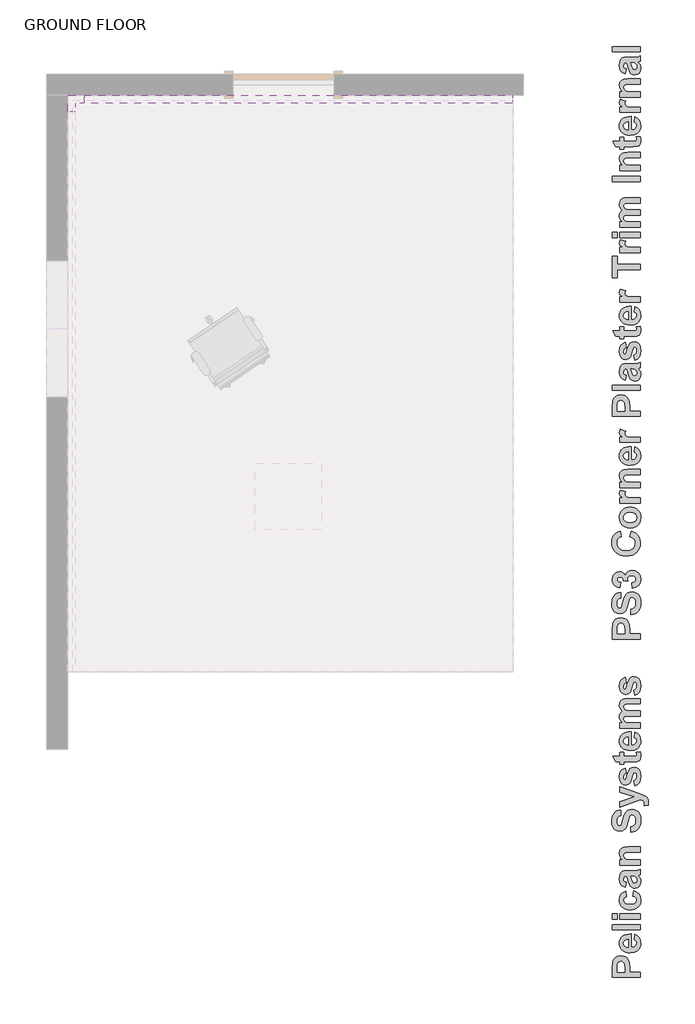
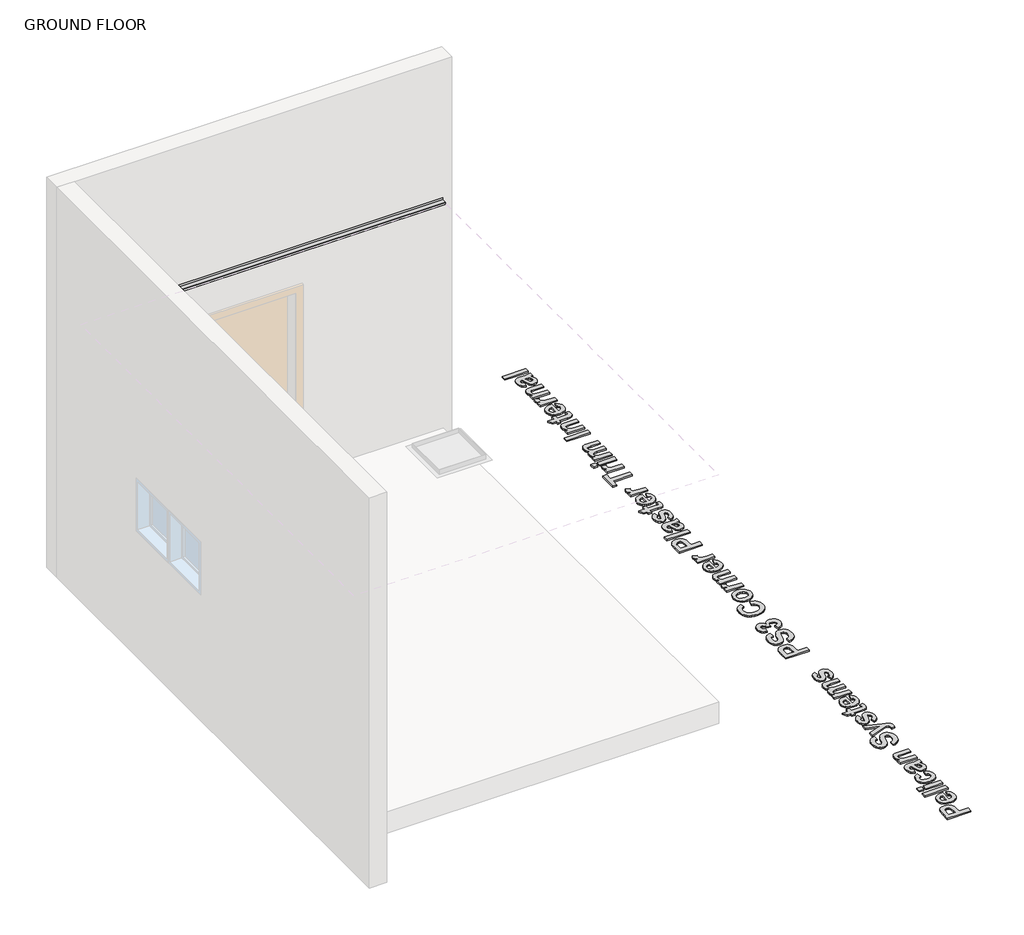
# One storey, part 2 of 2: 3 proxies.
"""IFC4 building model written with IfcOpenShell, lengths in millimetres."""

from ifc_helpers import new_model, si_unit, frame, origin, origin_with_axes, place, context, project, spatial, polyline, outline, extrude, transform, mapped, element, save
from components import ps3_corner_trim_internal_1c7d912d

model = new_model("IFC4")

# Units and contexts
model_context = context("Model", 3, world=origin())
ifc_project = project(units=[si_unit("LENGTHUNIT", "METRE", prefix="MILLI")], contexts=[model_context])

# Site, building, storey
site = spatial("IfcSite", under=ifc_project)
building = spatial("IfcBuilding", under=site)
storey = spatial("IfcBuildingStorey", under=building, Name="GROUND FLOOR", Elevation=0.0)

# Proxies
placement = place(None, origin())
element("IfcBuildingElementProxy", 1, Name="600mm Arial", ObjectType="600mm Arial", at=placement, inside=storey, context=model_context, shape_type="SweptSolid", body=[
    extrude(outline(polyline([(125618.7572663, 46653.2083414), (125363.6924163, 46653.2083414), (125363.6924163, 46735.3832522), (125367.4880242, 46796.3027588), (125376.5421305, 46816.3483129), (125392.3176258, 46832.8354847), (125414.2293539, 46843.8664701), (125441.6921584, 46847.5434652), (125463.1768806, 46845.3847132), (125480.94507, 46838.9084573), (125495.1469695, 46829.1031369), (125505.9328219, 46816.9571917), (125517.9838769, 46789.9134855), (125521.5897044, 46735.8260731), (125521.5897044, 46701.7921224), (125618.7572663, 46701.7921224), (125618.7572663, 46653.2083414)]), holes=[polyline([(125408.2275489, 46701.7921224), (125477.0545719, 46701.7921224), (125477.0545719, 46731.9672051), (125473.258964, 46775.5218056), (125461.3344292, 46792.7285613), (125452.5491785, 46797.4019035), (125442.45128, 46798.9596843), (125430.3844099, 46796.7693022), (125420.6265346, 46790.1981561), (125413.6362901, 46780.290038), (125409.8723123, 46768.0887401), (125408.2275489, 46728.4246377), (125408.2275489, 46701.7921224)])]), origin_with_axes(), (0.0, 0.0, 1.0), 15.0),
    extrude(outline(polyline([(125562.0761886, 46993.2948081), (125570.1734854, 47041.878589), (125592.844335, 47030.0489444), (125609.3631368, 47012.9054488), (125619.4452203, 46990.6220675), (125622.8059147, 46963.3727659), (125620.8250819, 46941.3701014), (125614.8825833, 46922.4276458), (125604.978419, 46906.5453991), (125591.1125889, 46893.7233612), (125562.4083042, 46880.3438434), (125527.0300757, 46875.8840041), (125505.1895154, 46877.3627097), (125485.8477302, 46881.7988264), (125469.0047202, 46889.1923543), (125454.6604854, 46899.5432933), (125443.2024941, 46912.155782), (125435.0182145, 46926.3339589), (125430.1076468, 46942.0778242), (125428.4707909, 46959.3873776), (125430.1511382, 46978.6224113), (125435.1921799, 46995.7145081), (125443.5939161, 47010.6636679), (125455.3563468, 47023.4698908), (125470.5901772, 47033.6745407), (125489.4061126, 47040.8189818), (125511.8041529, 47044.9032141), (125537.7842981, 47045.9272374), (125537.7842981, 46924.4677851), (125558.2489506, 46927.5833465), (125573.5895325, 46935.9178689), (125583.1734424, 46948.2061494), (125586.368079, 46963.1829855), (125584.928911, 46973.3836817), (125580.6114071, 46981.8447243), (125573.0992665, 46988.5028531), (125562.0761886, 46993.2948081)]), holes=[polyline([(125509.4437592, 46997.3434565), (125490.2364018, 46994.3860453), (125476.2638203, 46986.525974), (125467.7474251, 46975.1075203), (125464.9086267, 46961.474962), (125467.8976679, 46947.0832821), (125476.8647915, 46935.4117878), (125491.0192459, 46927.7573119), (125509.4437592, 46925.2901668), (125509.4437592, 46997.3434565)])]), origin_with_axes(), (0.0, 0.0, 1.0), 15.0),
    extrude(outline(polyline([(125618.7572663, 47082.3650732), (125363.6924163, 47082.3650732), (125363.6924163, 47130.9488541), (125618.7572663, 47130.9488541), (125618.7572663, 47082.3650732)])), origin_with_axes(), (0.0, 0.0, 1.0), 15.0),
    extrude(outline(polyline([(125408.2275489, 47179.5326351), (125363.6924163, 47179.5326351), (125363.6924163, 47228.116416), (125408.2275489, 47228.116416), (125408.2275489, 47179.5326351)])), origin_with_axes(), (0.0, 0.0, 1.0), 15.0),
    extrude(outline(polyline([(125618.7572663, 47179.5326351), (125432.5194394, 47179.5326351), (125432.5194394, 47228.116416), (125618.7572663, 47228.116416), (125618.7572663, 47179.5326351)])), origin_with_axes(), (0.0, 0.0, 1.0), 15.0),
    extrude(outline(polyline([(125485.1518687, 47430.5488366), (125493.2491655, 47381.9650557), (125480.8897174, 47378.2406154), (125472.0253914, 47371.6220242), (125466.6878179, 47362.3465074), (125464.9086267, 47350.6512906), (125468.2455986, 47335.2474486), (125478.2565144, 47323.3229138), (125496.0800564, 47315.684253), (125522.8549071, 47313.1380327), (125552.5397237, 47315.7870507), (125572.0080292, 47323.7341047), (125582.7780666, 47336.140998), (125586.368079, 47352.1695338), (125584.3200323, 47364.3075715), (125578.175892, 47374.0259092), (125567.0183863, 47381.2771017), (125549.9302433, 47386.0137041), (125558.0275401, 47434.597485), (125586.1703911, 47423.9618754), (125606.4531708, 47406.6048769), (125618.7177288, 47382.368339), (125622.8059147, 47351.0941115), (125621.1967352, 47332.3275982), (125616.3691964, 47315.5656402), (125608.3232984, 47300.8082377), (125597.0590412, 47288.0553905), (125582.9520319, 47277.7736423), (125566.3778775, 47270.4295364), (125547.3365779, 47266.0230729), (125525.8281332, 47264.5542517), (125504.0765324, 47266.0131885), (125484.8751056, 47270.3899988), (125468.2238529, 47277.6846827), (125454.1227742, 47287.8972402), (125442.9000316, 47300.6006654), (125434.8837868, 47315.3679523), (125430.0740399, 47332.199101), (125428.4707909, 47351.0941115), (125431.9738207, 47380.3361073), (125442.4829101, 47402.9041592), (125460.1562093, 47419.4308685), (125485.1518687, 47430.5488366)])), origin_with_axes(), (0.0, 0.0, 1.0), 15.0),
    extrude(outline(polyline([(125489.2005171, 47511.5218049), (125481.1032203, 47466.9866723), (125457.7602318, 47476.6417499), (125441.3758578, 47491.4367131), (125431.6970576, 47513.0005105), (125428.4707909, 47542.9620902), (125430.4239475, 47570.0532415), (125436.2834172, 47589.2052463), (125445.1398356, 47602.1419432), (125456.0838383, 47610.5871707), (125473.0929062, 47615.2367904), (125500.1445199, 47616.7866636), (125557.5847192, 47616.7866636), (125593.7695144, 47619.3486989), (125618.7572663, 47628.9326088), (125618.7572663, 47580.3488279), (125603.3217943, 47575.7940984), (125597.1855615, 47574.0860749), (125616.3850114, 47548.0861609), (125621.2006889, 47533.7735561), (125622.8059147, 47518.5436795), (125618.9075091, 47493.7694305), (125607.2122923, 47474.8625587), (125589.5706232, 47462.8826713), (125567.8328605, 47458.8893755), (125552.9350996, 47460.6685667), (125539.7453622, 47466.0061403), (125528.8488045, 47474.5541656), (125520.8305829, 47485.9647118), (125509.3804991, 47522.9718887), (125497.297814, 47568.2028827), (125492.1737433, 47568.2028827), (125479.5533471, 47566.692547), (125471.1713797, 47562.1615401), (125466.4743149, 47553.4553645), (125464.9086267, 47539.4195228), (125466.2529045, 47529.3453469), (125470.2857378, 47521.7699462), (125489.2005171, 47511.5218049)]), holes=[polyline([(125533.7356497, 47568.2028827), (125540.4728537, 47540.8112457), (125548.1589596, 47516.2663147), (125555.070129, 47509.671446), (125563.6576918, 47507.4731565), (125572.2689772, 47509.2365326), (125579.630875, 47514.5266611), (125584.683778, 47522.5369753), (125586.368079, 47532.4609084), (125584.407015, 47544.3696281), (125578.5238227, 47555.6773766), (125563.9739925, 47566.431599), (125542.5288079, 47568.2028827), (125533.7356497, 47568.2028827)])]), origin_with_axes(), (0.0, 0.0, 1.0), 15.0),
    extrude(outline(polyline([(125618.7572663, 47831.3650295), (125618.7572663, 47782.7812485), (125523.0446875, 47782.7812485), (125483.6968857, 47779.7447622), (125469.8429169, 47769.8129216), (125464.9086267, 47753.3020273), (125466.6720028, 47741.5435503), (125471.9621313, 47731.0660911), (125480.1701334, 47722.7790138), (125490.6871302, 47717.5916831), (125533.7989098, 47713.9542255), (125618.7572663, 47713.9542255), (125618.7572663, 47665.3704446), (125432.5194394, 47665.3704446), (125432.5194394, 47713.9542255), (125459.3417351, 47713.9542255), (125445.835697, 47726.2464598), (125436.188527, 47740.0332147), (125430.400225, 47755.3144902), (125428.4707909, 47772.0902863), (125434.3539832, 47800.3043049), (125449.3466343, 47819.6619052), (125470.0010672, 47828.8029941), (125503.1177461, 47831.3650295), (125618.7572663, 47831.3650295)])), origin_with_axes(), (0.0, 0.0, 1.0), 15.0),
    extrude(outline(polyline([(125533.7356497, 47964.9704271), (125529.6870013, 48013.554208), (125551.4168564, 48020.6393428), (125566.5043978, 48032.5322475), (125575.3291861, 48049.3119973), (125578.2707822, 48071.0576675), (125575.6692093, 48093.6257194), (125567.8644906, 48109.8361281), (125556.5804646, 48119.6098184), (125543.54097, 48122.8677152), (125528.3269084, 48117.4589739), (125517.4145358, 48098.5125646), (125506.5970533, 48056.381317), (125495.415825, 48020.4179323), (125481.7358216, 47997.0433137), (125458.4402782, 47979.0616214), (125430.5583753, 47973.0677239), (125411.7701162, 47975.8195396), (125394.2470598, 47984.0749868), (125379.3651139, 47997.5177647), (125368.5001863, 48015.8315728), (125361.8578725, 48038.7159253), (125359.6437679, 48065.8703367), (125365.1632144, 48107.8355264), (125372.0625225, 48124.3760739), (125381.7215538, 48137.9552565), (125393.6816724, 48148.6165655), (125407.4842423, 48156.4034924), (125423.1292636, 48161.3160369), (125440.6167362, 48163.3541993), (125440.6167362, 48114.7704183), (125423.923969, 48109.4012147), (125412.6873881, 48100.1256979), (125406.3060224, 48086.0898563), (125404.1789005, 48066.4396779), (125406.4404502, 48045.7536149), (125413.2250993, 48030.1283625), (125420.0255634, 48023.7707193), (125428.7870916, 48021.6515049), (125437.0583538, 48023.5809389), (125444.0327833, 48029.3692409), (125452.2012478, 48046.1727133), (125460.6385678, 48076.9724898), (125469.415911, 48109.8440356), (125478.6044451, 48132.8628159), (125489.7303207, 48148.9941495), (125504.3196885, 48161.2033548), (125522.5544214, 48168.8894608), (125544.6163923, 48171.4514961), (125565.6820161, 48168.4229173), (125585.3559169, 48159.337181), (125601.8984413, 48144.7082756), (125613.5699356, 48125.0501897), (125620.4969199, 48100.1494205), (125622.8059147, 48069.7924649), (125621.3845387, 48047.0899852), (125617.1204104, 48027.1867664), (125610.01353, 48010.0828083), (125600.0638975, 47995.7781111), (125587.3901255, 47984.1738307), (125572.1108269, 47975.1711233), (125554.2260016, 47968.7699887), (125533.7356497, 47964.9704271)])), origin_with_axes(), (0.0, 0.0, 1.0), 15.0),
    extrude(outline(polyline([(125432.5194394, 48191.6947382), (125432.5194394, 48240.2785191), (125564.3535533, 48282.7893275), (125432.5194394, 48325.3001358), (125432.5194394, 48373.8839167), (125610.9762702, 48310.8768258), (125644.124579, 48299.1737015), (125667.7206081, 48287.6287275), (125680.9419755, 48275.0083313), (125688.8178619, 48257.4536448), (125691.6329378, 48233.952506), (125688.849492, 48207.8893318), (125652.8544772, 48203.8406834), (125655.195102, 48223.1350235), (125652.6251592, 48236.9020096), (125644.9153307, 48246.5729022), (125618.7572663, 48258.2443965), (125432.5194394, 48191.6947382)])), origin_with_axes(), (0.0, 0.0, 1.0), 15.0),
    extrude(outline(polyline([(125566.124837, 48381.9812136), (125558.0275401, 48430.5649945), (125570.2683756, 48435.1908916), (125579.156424, 48442.9956104), (125584.5651653, 48454.2480062), (125586.368079, 48469.2169348), (125584.6442405, 48485.4589736), (125579.4727247, 48497.1146528), (125573.842573, 48501.8591627), (125566.5676579, 48503.4406659), (125557.458199, 48500.087879), (125551.0689257, 48484.209586), (125538.6383099, 48437.2863835), (125527.2831163, 48411.3971747), (125509.3014239, 48395.4081765), (125485.4681694, 48390.0785104), (125463.2796783, 48394.6490549), (125444.9184251, 48408.3606884), (125432.5826995, 48431.6878619), (125428.4707909, 48465.1050263), (125431.7919478, 48496.9723175), (125441.7554185, 48519.4454792), (125458.2346828, 48534.4539454), (125481.1032203, 48543.9271501), (125489.2005171, 48495.3433691), (125478.8100405, 48491.7691717), (125471.1713797, 48485.9808697), (125466.4743149, 48477.6305323), (125464.9086267, 48466.3702289), (125466.2370894, 48452.5320752), (125470.2224777, 48443.2802809), (125480.0910582, 48438.6622913), (125488.8842165, 48443.2802809), (125502.4851447, 48486.2655403), (125512.3062801, 48517.4923226), (125524.1833698, 48537.6011369), (125539.8560674, 48548.4186194), (125560.6844657, 48552.0244469), (125584.3832924, 48546.7975785), (125604.4921067, 48531.1169735), (125612.5043977, 48519.4079185), (125618.2274627, 48505.1882271), (125622.8059147, 48469.2169348), (125618.9944918, 48435.9025681), (125607.5602231, 48410.3533825), (125589.5785307, 48392.4270428), (125566.124837, 48381.9812136)])), origin_with_axes(), (0.0, 0.0, 1.0), 15.0),
    extrude(outline(polyline([(125432.5194394, 48685.6298445), (125468.9572751, 48685.6298445), (125468.9572751, 48649.1920088), (125548.8548211, 48649.1920088), (125577.1004698, 48650.2990611), (125583.7427836, 48655.3282416), (125586.368079, 48664.8805214), (125581.6868293, 48687.6541687), (125616.2268611, 48689.6784929), (125621.1611513, 48670.937679), (125622.8059147, 48649.8878702), (125618.2511853, 48625.3429392), (125606.4848008, 48609.3064959), (125586.9374202, 48602.1897311), (125551.5750067, 48600.6082279), (125468.9572751, 48600.6082279), (125468.9572751, 48576.3163374), (125432.5194394, 48576.3163374), (125432.5194394, 48600.6082279), (125396.0816036, 48600.6082279), (125367.7410648, 48649.1920088), (125432.5194394, 48649.1920088), (125432.5194394, 48685.6298445)])), origin_with_axes(), (0.0, 0.0, 1.0), 15.0),
    extrude(outline(polyline([(125562.0761886, 48819.2352421), (125570.1734854, 48867.8190231), (125592.844335, 48855.9893785), (125609.3631368, 48838.8458829), (125619.4452203, 48816.5625016), (125622.8059147, 48789.3132), (125620.8250819, 48767.3105355), (125614.8825833, 48748.3680799), (125604.978419, 48732.4858331), (125591.1125889, 48719.6637952), (125562.4083042, 48706.2842774), (125527.0300757, 48701.8244382), (125505.1895154, 48703.3031437), (125485.8477302, 48707.7392605), (125469.0047202, 48715.1327883), (125454.6604854, 48725.4837273), (125443.2024941, 48738.096216), (125435.0182145, 48752.274393), (125430.1076468, 48768.0182582), (125428.4707909, 48785.3278117), (125430.1511382, 48804.5628454), (125435.1921799, 48821.6549422), (125443.5939161, 48836.604102), (125455.3563468, 48849.4103248), (125470.5901772, 48859.6149748), (125489.4061126, 48866.7594159), (125511.8041529, 48870.8436481), (125537.7842981, 48871.8676715), (125537.7842981, 48750.4082191), (125558.2489506, 48753.5237806), (125573.5895325, 48761.8583029), (125583.1734424, 48774.1465834), (125586.368079, 48789.1234196), (125584.928911, 48799.3241158), (125580.6114071, 48807.7851583), (125573.0992665, 48814.4432872), (125562.0761886, 48819.2352421)]), holes=[polyline([(125509.4437592, 48823.2838905), (125490.2364018, 48820.3264794), (125476.2638203, 48812.4664081), (125467.7474251, 48801.0479543), (125464.9086267, 48787.415396), (125467.8976679, 48773.0237161), (125476.8647915, 48761.3522219), (125491.0192459, 48753.6977459), (125509.4437592, 48751.2306008), (125509.4437592, 48823.2838905)])]), origin_with_axes(), (0.0, 0.0, 1.0), 15.0),
    extrude(outline(polyline([(125432.5194394, 48904.2568588), (125432.5194394, 48952.8406397), (125457.4439311, 48952.8406397), (125444.7681823, 48964.8007583), (125435.714076, 48977.8442067), (125430.2816122, 48991.9709848), (125428.4707909, 49007.1810927), (125430.2499821, 49022.8300677), (125435.5875557, 49036.2491231), (125444.5309568, 49047.4540738), (125457.1276305, 49056.460735), (125444.5309568, 49068.8992584), (125435.5875557, 49082.3024987), (125430.2499821, 49096.6546411), (125428.4707909, 49111.9398703), (125430.5504678, 49130.3960137), (125436.7894982, 49145.7840406), (125447.0613621, 49157.8983558), (125461.239539, 49166.5333638), (125476.8173464, 49170.2340815), (125499.7649591, 49171.467654), (125618.7572663, 49171.467654), (125618.7572663, 49122.8838731), (125511.5313435, 49122.8838731), (125488.5837309, 49121.6503005), (125475.5363287, 49117.9495828), (125467.5655522, 49109.5676154), (125464.9086267, 49097.5798205), (125466.4980375, 49087.8772978), (125471.2662699, 49078.7599314), (125479.1026187, 49071.1687156), (125489.8963786, 49066.044645), (125528.6748392, 49062.1541469), (125618.7572663, 49062.1541469), (125618.7572663, 49013.5703659), (125515.9595527, 49013.5703659), (125480.6287693, 49011.0399607), (125468.7991247, 49003.2273344), (125464.9086267, 48988.8356545), (125466.4505924, 48978.4451779), (125471.0764895, 48969.1617537), (125478.6202601, 48961.6654281), (125488.9158465, 48956.6362476), (125527.5994169, 48952.8406397), (125618.7572663, 48952.8406397), (125618.7572663, 48904.2568588), (125432.5194394, 48904.2568588)])), origin_with_axes(), (0.0, 0.0, 1.0), 15.0),
    extrude(outline(polyline([(125566.124837, 49199.8081929), (125558.0275401, 49248.3919739), (125570.2683756, 49253.017871), (125579.156424, 49260.8225897), (125584.5651653, 49272.0749856), (125586.368079, 49287.0439142), (125584.6442405, 49303.2859529), (125579.4727247, 49314.9416321), (125573.842573, 49319.686142), (125566.5676579, 49321.2676453), (125557.458199, 49317.9148583), (125551.0689257, 49302.0365653), (125538.6383099, 49255.1133628), (125527.2831163, 49229.224154), (125509.3014239, 49213.2351558), (125485.4681694, 49207.9054897), (125463.2796783, 49212.4760342), (125444.9184251, 49226.1876677), (125432.5826995, 49249.5148412), (125428.4707909, 49282.9320056), (125431.7919478, 49314.7992968), (125441.7554185, 49337.2724585), (125458.2346828, 49352.2809247), (125481.1032203, 49361.7541294), (125489.2005171, 49313.1703485), (125478.8100405, 49309.596151), (125471.1713797, 49303.807849), (125466.4743149, 49295.4575117), (125464.9086267, 49284.1972083), (125466.2370894, 49270.3590545), (125470.2224777, 49261.1072603), (125480.0910582, 49256.4892707), (125488.8842165, 49261.1072603), (125502.4851447, 49304.0925196), (125512.3062801, 49335.319302), (125524.1833698, 49355.4281163), (125539.8560674, 49366.2455987), (125560.6844657, 49369.8514262), (125584.3832924, 49364.6245579), (125604.4921067, 49348.9439528), (125612.5043977, 49337.2348978), (125618.2274627, 49323.0152064), (125622.8059147, 49287.0439142), (125618.9944918, 49253.7295474), (125607.5602231, 49228.1803619), (125589.5785307, 49210.2540221), (125566.124837, 49199.8081929)])), origin_with_axes(), (0.0, 0.0, 1.0), 15.0),
    extrude(outline(polyline([(125618.7572663, 49705.8892445), (125363.6924163, 49705.8892445), (125363.6924163, 49788.0641552), (125367.4880242, 49848.9836618), (125376.5421305, 49869.029216), (125392.3176258, 49885.5163877), (125414.2293539, 49896.5473731), (125441.6921584, 49900.2243683), (125463.1768806, 49898.0656163), (125480.94507, 49891.5893603), (125495.1469695, 49881.78404), (125505.9328219, 49869.6380947), (125517.9838769, 49842.5943885), (125521.5897044, 49788.5069761), (125521.5897044, 49754.4730254), (125618.7572663, 49754.4730254), (125618.7572663, 49705.8892445)]), holes=[polyline([(125408.2275489, 49754.4730254), (125477.0545719, 49754.4730254), (125477.0545719, 49784.6481081), (125473.258964, 49828.2027086), (125461.3344292, 49845.4094644), (125452.5491785, 49850.0828066), (125442.45128, 49851.6405873), (125430.3844099, 49849.4502053), (125420.6265346, 49842.8790591), (125413.6362901, 49832.970941), (125409.8723123, 49820.7696432), (125408.2275489, 49781.1055408), (125408.2275489, 49754.4730254)])]), origin_with_axes(), (0.0, 0.0, 1.0), 15.0),
    extrude(outline(polyline([(125533.7356497, 49928.5649072), (125529.6870013, 49977.1486881), (125551.4168564, 49984.2338228), (125566.5043978, 49996.1267275), (125575.3291861, 50012.9064774), (125578.2707822, 50034.6521476), (125575.6692093, 50057.2201995), (125567.8644906, 50073.4306082), (125556.5804646, 50083.2042985), (125543.54097, 50086.4621952), (125528.3269084, 50081.053454), (125517.4145358, 50062.1070446), (125506.5970533, 50019.9757971), (125495.415825, 49984.0124124), (125481.7358216, 49960.6377938), (125458.4402782, 49942.6561014), (125430.5583753, 49936.662204), (125411.7701162, 49939.4140197), (125394.2470598, 49947.6694669), (125379.3651139, 49961.1122448), (125368.5001863, 49979.4260528), (125361.8578725, 50002.3104054), (125359.6437679, 50029.4648168), (125365.1632144, 50071.4300065), (125372.0625225, 50087.970554), (125381.7215538, 50101.5497366), (125393.6816724, 50112.2110456), (125407.4842423, 50119.9979724), (125423.1292636, 50124.910517), (125440.6167362, 50126.9486794), (125440.6167362, 50078.3648984), (125423.923969, 50072.9956948), (125412.6873881, 50063.720178), (125406.3060224, 50049.6843363), (125404.1789005, 50030.034158), (125406.4404502, 50009.348095), (125413.2250993, 49993.7228425), (125420.0255634, 49987.3651993), (125428.7870916, 49985.2459849), (125437.0583538, 49987.1754189), (125444.0327833, 49992.963721), (125452.2012478, 50009.7671934), (125460.6385678, 50040.5669699), (125469.415911, 50073.4385157), (125478.6044451, 50096.457296), (125489.7303207, 50112.5886295), (125504.3196885, 50124.7978349), (125522.5544214, 50132.4839409), (125544.6163923, 50135.0459762), (125565.6820161, 50132.0173974), (125585.3559169, 50122.931661), (125601.8984413, 50108.3027556), (125613.5699356, 50088.6446698), (125620.4969199, 50063.7439005), (125622.8059147, 50033.386945), (125621.3845387, 50010.6844653), (125617.1204104, 49990.7812464), (125610.01353, 49973.6772884), (125600.0638975, 49959.3725912), (125587.3901255, 49947.7683108), (125572.1108269, 49938.7656034), (125554.2260016, 49932.3644688), (125533.7356497, 49928.5649072)])), origin_with_axes(), (0.0, 0.0, 1.0), 15.0),
    extrude(outline(polyline([(125547.4630982, 50167.4351635), (125541.8329465, 50216.0189444), (125557.458199, 50219.7671072), (125568.9082828, 50226.9629472), (125575.9301573, 50236.8157127), (125578.2707822, 50248.534652), (125575.5901341, 50261.1076031), (125567.5481899, 50271.4980797), (125554.9673313, 50278.4725092), (125538.6699399, 50280.797319), (125523.2502829, 50278.6701971), (125511.4048233, 50272.2888314), (125503.8610526, 50262.8393492), (125501.3464624, 50251.5078782), (125504.9522899, 50232.2135381), (125464.9086267, 50236.4519669), (125463.168973, 50250.2822131), (125456.9378501, 50260.3959267), (125447.0692696, 50266.587512), (125434.4172433, 50268.6513738), (125423.6709285, 50267.1094081), (125415.3443137, 50262.483511), (125410.0067401, 50255.2955786), (125408.2275489, 50246.0675069), (125410.2914107, 50236.6812849), (125416.482996, 50228.7658609), (125426.6441546, 50223.0012815), (125440.6167362, 50220.0675929), (125433.3418211, 50171.4838119), (125411.6040584, 50177.042796), (125394.7215108, 50184.8633297), (125381.8085365, 50195.585922), (125371.9794936, 50209.8510816), (125365.7641856, 50226.8443344), (125363.6924163, 50245.7512062), (125369.4332733, 50276.4007399), (125376.6093444, 50289.187194), (125386.6558441, 50300.2814395), (125406.6776757, 50312.996726), (125429.1666524, 50317.2351548), (125445.1121593, 50314.9617438), (125459.3575501, 50308.1415109), (125471.9028249, 50296.774456), (125482.7479837, 50280.8605792), (125490.2996619, 50300.7242605), (125503.592197, 50316.1597325), (125521.4552767, 50326.0757581), (125542.7185883, 50329.3811), (125573.4867348, 50323.5216303), (125599.368036, 50305.9432213), (125609.622108, 50293.5066748), (125616.9464451, 50279.6349141), (125622.8059147, 50247.58575), (125617.5948614, 50217.3236847), (125601.9617014, 50192.707586), (125577.914944, 50175.4929227), (125547.4630982, 50167.4351635)])), origin_with_axes(), (0.0, 0.0, 1.0), 15.0),
    extrude(outline(polyline([(125521.5897044, 50633.0297309), (125537.7842981, 50681.6135119), (125573.5658099, 50666.288745), (125587.5008308, 50655.7677944), (125598.7986949, 50643.3411324), (125613.7676235, 50612.9762693), (125618.7572663, 50575.3997512), (125616.6261907, 50551.0722769), (125610.2329636, 50529.0142598), (125599.5775852, 50509.2256999), (125584.6600555, 50491.7065973), (125566.0457618, 50477.37027), (125544.3000916, 50467.1300362), (125519.4230449, 50460.985896), (125491.4146217, 50458.9378492), (125461.8800479, 50461.0036879), (125435.8405963, 50467.2012039), (125413.2962669, 50477.5303972), (125394.2470598, 50491.9912679), (125379.1081196, 50509.8207406), (125368.2945909, 50530.2557399), (125361.8064737, 50553.2962659), (125359.6437679, 50578.9423186), (125361.4269129, 50601.3680352), (125366.7763478, 50621.5796471), (125375.6920725, 50639.5771545), (125388.1740872, 50655.3605573), (125408.6861848, 50670.6853242), (125436.5680878, 50681.6135119), (125444.6653846, 50633.0297309), (125427.8619122, 50625.588758), (125415.028013, 50612.8813791), (125406.8911786, 50595.8881263), (125404.1789005, 50575.5895316), (125409.1052832, 50548.1425421), (125423.8844314, 50526.4047794), (125435.2613707, 50518.1434016), (125449.6866575, 50512.2424175), (125487.682274, 50507.5216302), (125527.7575672, 50512.1000822), (125542.7423109, 50517.8231472), (125554.3584525, 50525.8354382), (125569.2562135, 50546.9089695), (125574.2221338, 50573.5019472), (125571.0512197, 50593.5791315), (125561.5384774, 50610.6672745), (125545.209456, 50624.0546998), (125521.5897044, 50633.0297309)])), origin_with_axes(), (0.0, 0.0, 1.0), 15.0),
    extrude(outline(polyline([(125522.9814273, 50709.9540508), (125498.8872248, 50712.9509995), (125475.5679588, 50721.9418457), (125455.3484393, 50736.4205083), (125440.5534761, 50755.8809062), (125431.4914622, 50779.1131895), (125428.4707909, 50804.9075081), (125430.1827683, 50824.8996865), (125435.3187002, 50842.9980147), (125443.8785867, 50859.2024928), (125455.8624279, 50873.5131206), (125470.463657, 50885.2063606), (125486.8757073, 50893.5586748), (125505.0985789, 50898.5700633), (125525.1322718, 50900.2405262), (125545.3260919, 50898.5522714), (125563.7130445, 50893.4875071), (125580.2931295, 50885.0462333), (125595.0663471, 50873.22845), (125607.2024079, 50858.8525852), (125615.8710228, 50842.7370667), (125621.0721918, 50824.8818946), (125622.8059147, 50805.2870689), (125619.9196712, 50780.5128199), (125611.2609408, 50756.9246984), (125597.0195037, 50736.6814563), (125577.3851404, 50721.9418457), (125552.6187989, 50712.9509995), (125522.9814273, 50709.9540508)]), holes=[polyline([(125525.6383528, 50758.5378317), (125551.6145443, 50761.8985262), (125570.7111965, 50771.9806097), (125582.4538584, 50786.9969834), (125586.368079, 50805.1605486), (125582.4538584, 50823.3082988), (125570.7111965, 50838.2772274), (125551.5196541, 50848.3118658), (125525.2587921, 50851.6567452), (125499.5672712, 50848.3118658), (125480.5655092, 50838.2772274), (125468.8228473, 50823.3082988), (125464.9086267, 50805.1605486), (125468.8228473, 50786.9969834), (125480.5655092, 50771.9806097), (125499.6621614, 50761.8985262), (125525.6383528, 50758.5378317)])]), origin_with_axes(), (0.0, 0.0, 1.0), 15.0),
    extrude(outline(polyline([(125618.7572663, 50985.2621428), (125618.7572663, 50936.6783619), (125432.5194394, 50936.6783619), (125432.5194394, 50985.2621428), (125458.4560933, 50985.2621428), (125434.259093, 51004.6830032), (125428.4707909, 51024.2936439), (125431.0328263, 51039.4602604), (125438.7189322, 51054.0891658), (125484.9620883, 51039.9188964), (125479.031451, 51028.2157721), (125477.0545719, 51017.3982896), (125482.5898334, 51000.286424), (125490.347107, 50994.0394861), (125502.5484049, 50989.2791612), (125563.0250905, 50985.2621428), (125618.7572663, 50985.2621428)])), origin_with_axes(), (0.0, 0.0, 1.0), 15.0),
    extrude(outline(polyline([(125618.7572663, 51240.3269928), (125618.7572663, 51191.7432119), (125523.0446875, 51191.7432119), (125483.6968857, 51188.7067256), (125469.8429169, 51178.7748849), (125464.9086267, 51162.2639906), (125466.6720028, 51150.5055137), (125471.9621313, 51140.0280544), (125480.1701334, 51131.7409772), (125490.6871302, 51126.5536464), (125533.7989098, 51122.9161889), (125618.7572663, 51122.9161889), (125618.7572663, 51074.3324079), (125432.5194394, 51074.3324079), (125432.5194394, 51122.9161889), (125459.3417351, 51122.9161889), (125445.835697, 51135.2084231), (125436.188527, 51148.995178), (125430.400225, 51164.2764535), (125428.4707909, 51181.0522497), (125434.3539832, 51209.2662683), (125449.3466343, 51228.6238685), (125470.0010672, 51237.7649575), (125503.1177461, 51240.3269928), (125618.7572663, 51240.3269928)])), origin_with_axes(), (0.0, 0.0, 1.0), 15.0),
    extrude(outline(polyline([(125562.0761886, 51394.1756325), (125570.1734854, 51442.7594134), (125592.844335, 51430.9297689), (125609.3631368, 51413.7862732), (125619.4452203, 51391.5028919), (125622.8059147, 51364.2535903), (125620.8250819, 51342.2509259), (125614.8825833, 51323.3084702), (125604.978419, 51307.4262235), (125591.1125889, 51294.6041856), (125562.4083042, 51281.2246678), (125527.0300757, 51276.7648285), (125505.1895154, 51278.2435341), (125485.8477302, 51282.6796508), (125469.0047202, 51290.0731787), (125454.6604854, 51300.4241177), (125443.2024941, 51313.0366064), (125435.0182145, 51327.2147834), (125430.1076468, 51342.9586486), (125428.4707909, 51360.268202), (125430.1511382, 51379.5032358), (125435.1921799, 51396.5953325), (125443.5939161, 51411.5444923), (125455.3563468, 51424.3507152), (125470.5901772, 51434.5553651), (125489.4061126, 51441.6998062), (125511.8041529, 51445.7840385), (125537.7842981, 51446.8080619), (125537.7842981, 51325.3486095), (125558.2489506, 51328.464171), (125573.5895325, 51336.7986933), (125583.1734424, 51349.0869738), (125586.368079, 51364.0638099), (125584.928911, 51374.2645061), (125580.6114071, 51382.7255487), (125573.0992665, 51389.3836775), (125562.0761886, 51394.1756325)]), holes=[polyline([(125509.4437592, 51398.2242809), (125490.2364018, 51395.2668698), (125476.2638203, 51387.4067984), (125467.7474251, 51375.9883447), (125464.9086267, 51362.3557864), (125467.8976679, 51347.9641065), (125476.8647915, 51336.2926122), (125491.0192459, 51328.6381363), (125509.4437592, 51326.1709912), (125509.4437592, 51398.2242809)])]), origin_with_axes(), (0.0, 0.0, 1.0), 15.0),
    extrude(outline(polyline([(125618.7572663, 51531.8296785), (125618.7572663, 51483.2458976), (125432.5194394, 51483.2458976), (125432.5194394, 51531.8296785), (125458.4560933, 51531.8296785), (125434.259093, 51551.2505389), (125428.4707909, 51570.8611796), (125431.0328263, 51586.0277961), (125438.7189322, 51600.6567015), (125484.9620883, 51586.4864321), (125479.031451, 51574.7833078), (125477.0545719, 51563.9658253), (125482.5898334, 51546.8539597), (125490.347107, 51540.6070218), (125502.5484049, 51535.8466969), (125563.0250905, 51531.8296785), (125618.7572663, 51531.8296785)])), origin_with_axes(), (0.0, 0.0, 1.0), 15.0),
    extrude(outline(polyline([(125618.7572663, 51718.0675055), (125363.6924163, 51718.0675055), (125363.6924163, 51800.2424162), (125367.4880242, 51861.1619228), (125376.5421305, 51881.207477), (125392.3176258, 51897.6946487), (125414.2293539, 51908.7256342), (125441.6921584, 51912.4026293), (125463.1768806, 51910.2438773), (125480.94507, 51903.7676214), (125495.1469695, 51893.962301), (125505.9328219, 51881.8163557), (125517.9838769, 51854.7726496), (125521.5897044, 51800.6852372), (125521.5897044, 51766.6512864), (125618.7572663, 51766.6512864), (125618.7572663, 51718.0675055)]), holes=[polyline([(125408.2275489, 51766.6512864), (125477.0545719, 51766.6512864), (125477.0545719, 51796.8263691), (125473.258964, 51840.3809696), (125461.3344292, 51857.5877254), (125452.5491785, 51862.2610676), (125442.45128, 51863.8188483), (125430.3844099, 51861.6284663), (125420.6265346, 51855.0573201), (125413.6362901, 51845.1492021), (125409.8723123, 51832.9479042), (125408.2275489, 51793.2838018), (125408.2275489, 51766.6512864)])]), origin_with_axes(), (0.0, 0.0, 1.0), 15.0),
    extrude(outline(polyline([(125618.7572663, 51952.8891134), (125363.6924163, 51952.8891134), (125363.6924163, 52001.4728944), (125618.7572663, 52001.4728944), (125618.7572663, 51952.8891134)])), origin_with_axes(), (0.0, 0.0, 1.0), 15.0),
    extrude(outline(polyline([(125489.2005171, 52090.5431594), (125481.1032203, 52046.0080269), (125457.7602318, 52055.6631045), (125441.3758578, 52070.4580677), (125431.6970576, 52092.021865), (125428.4707909, 52121.9834448), (125430.4239475, 52149.0745961), (125436.2834172, 52168.2266009), (125445.1398356, 52181.1632977), (125456.0838383, 52189.6085253), (125473.0929062, 52194.258145), (125500.1445199, 52195.8080182), (125557.5847192, 52195.8080182), (125593.7695144, 52198.3700535), (125618.7572663, 52207.9539634), (125618.7572663, 52159.3701825), (125603.3217943, 52154.815453), (125597.1855615, 52153.1074294), (125616.3850114, 52127.1075154), (125621.2006889, 52112.7949107), (125622.8059147, 52097.565034), (125618.9075091, 52072.7907851), (125607.2122923, 52053.8839133), (125589.5706232, 52041.9040259), (125567.8328605, 52037.9107301), (125552.9350996, 52039.6899213), (125539.7453622, 52045.0274949), (125528.8488045, 52053.5755201), (125520.8305829, 52064.9860663), (125509.3804991, 52101.9932432), (125497.297814, 52147.2242372), (125492.1737433, 52147.2242372), (125479.5533471, 52145.7139016), (125471.1713797, 52141.1828947), (125466.4743149, 52132.4767191), (125464.9086267, 52118.4408774), (125466.2529045, 52108.3667015), (125470.2857378, 52100.7913007), (125489.2005171, 52090.5431594)]), holes=[polyline([(125533.7356497, 52147.2242372), (125540.4728537, 52119.8326003), (125548.1589596, 52095.2876693), (125555.070129, 52088.6928006), (125563.6576918, 52086.494511), (125572.2689772, 52088.2578872), (125579.630875, 52093.5480157), (125584.683778, 52101.5583298), (125586.368079, 52111.482263), (125584.407015, 52123.3909827), (125578.5238227, 52134.6987312), (125563.9739925, 52145.4529535), (125542.5288079, 52147.2242372), (125533.7356497, 52147.2242372)])]), origin_with_axes(), (0.0, 0.0, 1.0), 15.0),
    extrude(outline(polyline([(125566.124837, 52224.1485571), (125558.0275401, 52272.732338), (125570.2683756, 52277.3582351), (125579.156424, 52285.1629538), (125584.5651653, 52296.4153497), (125586.368079, 52311.3842783), (125584.6442405, 52327.6263171), (125579.4727247, 52339.2819963), (125573.842573, 52344.0265062), (125566.5676579, 52345.6080094), (125557.458199, 52342.2552225), (125551.0689257, 52326.3769295), (125538.6383099, 52279.453727), (125527.2831163, 52253.5645182), (125509.3014239, 52237.57552), (125485.4681694, 52232.2458539), (125463.2796783, 52236.8163984), (125444.9184251, 52250.5280319), (125432.5826995, 52273.8552053), (125428.4707909, 52307.2723698), (125431.7919478, 52339.139661), (125441.7554185, 52361.6128227), (125458.2346828, 52376.6212889), (125481.1032203, 52386.0944936), (125489.2005171, 52337.5107126), (125478.8100405, 52333.9365152), (125471.1713797, 52328.1482132), (125466.4743149, 52319.7978758), (125464.9086267, 52308.5375724), (125466.2370894, 52294.6994187), (125470.2224777, 52285.4476244), (125480.0910582, 52280.8296348), (125488.8842165, 52285.4476244), (125502.4851447, 52328.4328838), (125512.3062801, 52359.6596661), (125524.1833698, 52379.7684804), (125539.8560674, 52390.5859629), (125560.6844657, 52394.1917904), (125584.3832924, 52388.964922), (125604.4921067, 52373.2843169), (125612.5043977, 52361.575262), (125618.2274627, 52347.3555706), (125622.8059147, 52311.3842783), (125618.9944918, 52278.0699116), (125607.5602231, 52252.520726), (125589.5785307, 52234.5943863), (125566.124837, 52224.1485571)])), origin_with_axes(), (0.0, 0.0, 1.0), 15.0),
    extrude(outline(polyline([(125432.5194394, 52527.797188), (125468.9572751, 52527.797188), (125468.9572751, 52491.3593523), (125548.8548211, 52491.3593523), (125577.1004698, 52492.4664046), (125583.7427836, 52497.495585), (125586.368079, 52507.0478649), (125581.6868293, 52529.8215122), (125616.2268611, 52531.8458364), (125621.1611513, 52513.1050225), (125622.8059147, 52492.0552137), (125618.2511853, 52467.5102827), (125606.4848008, 52451.4738394), (125586.9374202, 52444.3570746), (125551.5750067, 52442.7755713), (125468.9572751, 52442.7755713), (125468.9572751, 52418.4836809), (125432.5194394, 52418.4836809), (125432.5194394, 52442.7755713), (125396.0816036, 52442.7755713), (125367.7410648, 52491.3593523), (125432.5194394, 52491.3593523), (125432.5194394, 52527.797188)])), origin_with_axes(), (0.0, 0.0, 1.0), 15.0),
    extrude(outline(polyline([(125562.0761886, 52661.4025856), (125570.1734854, 52709.9863666), (125592.844335, 52698.156722), (125609.3631368, 52681.0132264), (125619.4452203, 52658.7298451), (125622.8059147, 52631.4805434), (125620.8250819, 52609.477879), (125614.8825833, 52590.5354234), (125604.978419, 52574.6531766), (125591.1125889, 52561.8311387), (125562.4083042, 52548.4516209), (125527.0300757, 52543.9917817), (125505.1895154, 52545.4704872), (125485.8477302, 52549.9066039), (125469.0047202, 52557.3001318), (125454.6604854, 52567.6510708), (125443.2024941, 52580.2635595), (125435.0182145, 52594.4417365), (125430.1076468, 52610.1856017), (125428.4707909, 52627.4951552), (125430.1511382, 52646.7301889), (125435.1921799, 52663.8222856), (125443.5939161, 52678.7714455), (125455.3563468, 52691.5776683), (125470.5901772, 52701.7823183), (125489.4061126, 52708.9267594), (125511.8041529, 52713.0109916), (125537.7842981, 52714.035015), (125537.7842981, 52592.5755626), (125558.2489506, 52595.6911241), (125573.5895325, 52604.0256464), (125583.1734424, 52616.3139269), (125586.368079, 52631.290763), (125584.928911, 52641.4914592), (125580.6114071, 52649.9525018), (125573.0992665, 52656.6106307), (125562.0761886, 52661.4025856)]), holes=[polyline([(125509.4437592, 52665.451234), (125490.2364018, 52662.4938229), (125476.2638203, 52654.6337516), (125467.7474251, 52643.2152978), (125464.9086267, 52629.5827395), (125467.8976679, 52615.1910596), (125476.8647915, 52603.5195653), (125491.0192459, 52595.8650894), (125509.4437592, 52593.3979443), (125509.4437592, 52665.451234)])]), origin_with_axes(), (0.0, 0.0, 1.0), 15.0),
    extrude(outline(polyline([(125618.7572663, 52799.0566316), (125618.7572663, 52750.4728507), (125432.5194394, 52750.4728507), (125432.5194394, 52799.0566316), (125458.4560933, 52799.0566316), (125434.259093, 52818.477492), (125428.4707909, 52838.0881327), (125431.0328263, 52853.2547493), (125438.7189322, 52867.8836547), (125484.9620883, 52853.7133852), (125479.031451, 52842.0102609), (125477.0545719, 52831.1927784), (125482.5898334, 52814.0809129), (125490.347107, 52807.8339749), (125502.5484049, 52803.07365), (125563.0250905, 52799.0566316), (125618.7572663, 52799.0566316)])), origin_with_axes(), (0.0, 0.0, 1.0), 15.0),
    extrude(outline(polyline([(125618.7572663, 53041.9755364), (125408.2275489, 53041.9755364), (125408.2275489, 52969.099865), (125363.6924163, 52969.099865), (125363.6924163, 53163.4349888), (125408.2275489, 53163.4349888), (125408.2275489, 53090.5593173), (125618.7572663, 53090.5593173), (125618.7572663, 53041.9755364)])), origin_with_axes(), (0.0, 0.0, 1.0), 15.0),
    extrude(outline(polyline([(125618.7572663, 53244.407957), (125618.7572663, 53195.8241761), (125432.5194394, 53195.8241761), (125432.5194394, 53244.407957), (125458.4560933, 53244.407957), (125434.259093, 53263.8288174), (125428.4707909, 53283.4394581), (125431.0328263, 53298.6060746), (125438.7189322, 53313.23498), (125484.9620883, 53299.0647106), (125479.031451, 53287.3615863), (125477.0545719, 53276.5441038), (125482.5898334, 53259.4322382), (125490.347107, 53253.1853003), (125502.5484049, 53248.4249754), (125563.0250905, 53244.407957), (125618.7572663, 53244.407957)])), origin_with_axes(), (0.0, 0.0, 1.0), 15.0),
    extrude(outline(polyline([(125408.2275489, 53333.4782221), (125363.6924163, 53333.4782221), (125363.6924163, 53382.062003), (125408.2275489, 53382.062003), (125408.2275489, 53333.4782221)])), origin_with_axes(), (0.0, 0.0, 1.0), 15.0),
    extrude(outline(polyline([(125618.7572663, 53333.4782221), (125432.5194394, 53333.4782221), (125432.5194394, 53382.062003), (125618.7572663, 53382.062003), (125618.7572663, 53333.4782221)])), origin_with_axes(), (0.0, 0.0, 1.0), 15.0),
    extrude(outline(polyline([(125432.5194394, 53426.5971356), (125432.5194394, 53475.1809165), (125457.4439311, 53475.1809165), (125444.7681823, 53487.1410351), (125435.714076, 53500.1844835), (125430.2816122, 53514.3112616), (125428.4707909, 53529.5213694), (125430.2499821, 53545.1703445), (125435.5875557, 53558.5893998), (125444.5309568, 53569.7943506), (125457.1276305, 53578.8010118), (125444.5309568, 53591.2395352), (125435.5875557, 53604.6427755), (125430.2499821, 53618.9949179), (125428.4707909, 53634.2801471), (125430.5504678, 53652.7362905), (125436.7894982, 53668.1243174), (125447.0613621, 53680.2386326), (125461.239539, 53688.8736406), (125476.8173464, 53692.5743582), (125499.7649591, 53693.8079308), (125618.7572663, 53693.8079308), (125618.7572663, 53645.2241499), (125511.5313435, 53645.2241499), (125488.5837309, 53643.9905773), (125475.5363287, 53640.2898596), (125467.5655522, 53631.9078922), (125464.9086267, 53619.9200973), (125466.4980375, 53610.2175746), (125471.2662699, 53601.1002082), (125479.1026187, 53593.5089924), (125489.8963786, 53588.3849218), (125528.6748392, 53584.4944237), (125618.7572663, 53584.4944237), (125618.7572663, 53535.9106427), (125515.9595527, 53535.9106427), (125480.6287693, 53533.3802375), (125468.7991247, 53525.5676112), (125464.9086267, 53511.1759313), (125466.4505924, 53500.7854547), (125471.0764895, 53491.5020304), (125478.6202601, 53484.0057049), (125488.9158465, 53478.9765244), (125527.5994169, 53475.1809165), (125618.7572663, 53475.1809165), (125618.7572663, 53426.5971356), (125432.5194394, 53426.5971356)])), origin_with_axes(), (0.0, 0.0, 1.0), 15.0),
    extrude(outline(polyline([(125618.7572663, 53839.5592737), (125363.6924163, 53839.5592737), (125363.6924163, 53888.1430546), (125618.7572663, 53888.1430546), (125618.7572663, 53839.5592737)])), origin_with_axes(), (0.0, 0.0, 1.0), 15.0),
    extrude(outline(polyline([(125618.7572663, 54102.7214205), (125618.7572663, 54054.1376395), (125523.0446875, 54054.1376395), (125483.6968857, 54051.1011532), (125469.8429169, 54041.1693126), (125464.9086267, 54024.6584183), (125466.6720028, 54012.8999413), (125471.9621313, 54002.4224821), (125480.1701334, 53994.1354048), (125490.6871302, 53988.9480741), (125533.7989098, 53985.3106165), (125618.7572663, 53985.3106165), (125618.7572663, 53936.7268356), (125432.5194394, 53936.7268356), (125432.5194394, 53985.3106165), (125459.3417351, 53985.3106165), (125445.835697, 53997.6028508), (125436.188527, 54011.3896057), (125430.400225, 54026.6708812), (125428.4707909, 54043.4466773), (125434.3539832, 54071.6606959), (125449.3466343, 54091.0182962), (125470.0010672, 54100.1593852), (125503.1177461, 54102.7214205), (125618.7572663, 54102.7214205)])), origin_with_axes(), (0.0, 0.0, 1.0), 15.0),
    extrude(outline(polyline([(125432.5194394, 54240.3754665), (125468.9572751, 54240.3754665), (125468.9572751, 54203.9376308), (125548.8548211, 54203.9376308), (125577.1004698, 54205.0446831), (125583.7427836, 54210.0738635), (125586.368079, 54219.6261434), (125581.6868293, 54242.3997907), (125616.2268611, 54244.4241149), (125621.1611513, 54225.683301), (125622.8059147, 54204.6334922), (125618.2511853, 54180.0885612), (125606.4848008, 54164.0521179), (125586.9374202, 54156.9353531), (125551.5750067, 54155.3538498), (125468.9572751, 54155.3538498), (125468.9572751, 54131.0619594), (125432.5194394, 54131.0619594), (125432.5194394, 54155.3538498), (125396.0816036, 54155.3538498), (125367.7410648, 54203.9376308), (125432.5194394, 54203.9376308), (125432.5194394, 54240.3754665)])), origin_with_axes(), (0.0, 0.0, 1.0), 15.0),
    extrude(outline(polyline([(125562.0761886, 54373.9808641), (125570.1734854, 54422.5646451), (125592.844335, 54410.7350005), (125609.3631368, 54393.5915049), (125619.4452203, 54371.3081236), (125622.8059147, 54344.0588219), (125620.8250819, 54322.0561575), (125614.8825833, 54303.1137019), (125604.978419, 54287.2314551), (125591.1125889, 54274.4094172), (125562.4083042, 54261.0298994), (125527.0300757, 54256.5700602), (125505.1895154, 54258.0487657), (125485.8477302, 54262.4848824), (125469.0047202, 54269.8784103), (125454.6604854, 54280.2293493), (125443.2024941, 54292.841838), (125435.0182145, 54307.020015), (125430.1076468, 54322.7638802), (125428.4707909, 54340.0734337), (125430.1511382, 54359.3084674), (125435.1921799, 54376.4005641), (125443.5939161, 54391.349724), (125455.3563468, 54404.1559468), (125470.5901772, 54414.3605968), (125489.4061126, 54421.5050379), (125511.8041529, 54425.5892701), (125537.7842981, 54426.6132935), (125537.7842981, 54305.1538411), (125558.2489506, 54308.2694026), (125573.5895325, 54316.6039249), (125583.1734424, 54328.8922054), (125586.368079, 54343.8690415), (125584.928911, 54354.0697377), (125580.6114071, 54362.5307803), (125573.0992665, 54369.1889092), (125562.0761886, 54373.9808641)]), holes=[polyline([(125509.4437592, 54378.0295125), (125490.2364018, 54375.0721014), (125476.2638203, 54367.21203), (125467.7474251, 54355.7935763), (125464.9086267, 54342.161018), (125467.8976679, 54327.7693381), (125476.8647915, 54316.0978438), (125491.0192459, 54308.4433679), (125509.4437592, 54305.9762228), (125509.4437592, 54378.0295125)])]), origin_with_axes(), (0.0, 0.0, 1.0), 15.0),
    extrude(outline(polyline([(125618.7572663, 54511.6349101), (125618.7572663, 54463.0511292), (125432.5194394, 54463.0511292), (125432.5194394, 54511.6349101), (125458.4560933, 54511.6349101), (125434.259093, 54531.0557705), (125428.4707909, 54550.6664112), (125431.0328263, 54565.8330278), (125438.7189322, 54580.4619332), (125484.9620883, 54566.2916637), (125479.031451, 54554.5885394), (125477.0545719, 54543.7710569), (125482.5898334, 54526.6591914), (125490.347107, 54520.4122534), (125502.5484049, 54515.6519285), (125563.0250905, 54511.6349101), (125618.7572663, 54511.6349101)])), origin_with_axes(), (0.0, 0.0, 1.0), 15.0),
    extrude(outline(polyline([(125618.7572663, 54766.6997601), (125618.7572663, 54718.1159792), (125523.0446875, 54718.1159792), (125483.6968857, 54715.0794929), (125469.8429169, 54705.1476522), (125464.9086267, 54688.6367579), (125466.6720028, 54676.878281), (125471.9621313, 54666.4008217), (125480.1701334, 54658.1137445), (125490.6871302, 54652.9264137), (125533.7989098, 54649.2889562), (125618.7572663, 54649.2889562), (125618.7572663, 54600.7051752), (125432.5194394, 54600.7051752), (125432.5194394, 54649.2889562), (125459.3417351, 54649.2889562), (125445.835697, 54661.5811905), (125436.188527, 54675.3679454), (125430.400225, 54690.6492209), (125428.4707909, 54707.425017), (125434.3539832, 54735.6390356), (125449.3466343, 54754.9966358), (125470.0010672, 54764.1377248), (125503.1177461, 54766.6997601), (125618.7572663, 54766.6997601)])), origin_with_axes(), (0.0, 0.0, 1.0), 15.0),
    extrude(outline(polyline([(125489.2005171, 54855.7700252), (125481.1032203, 54811.2348927), (125457.7602318, 54820.8899702), (125441.3758578, 54835.6849335), (125431.6970576, 54857.2487308), (125428.4707909, 54887.2103105), (125430.4239475, 54914.3014618), (125436.2834172, 54933.4534666), (125445.1398356, 54946.3901635), (125456.0838383, 54954.835391), (125473.0929062, 54959.4850107), (125500.1445199, 54961.0348839), (125557.5847192, 54961.0348839), (125593.7695144, 54963.5969193), (125618.7572663, 54973.1808292), (125618.7572663, 54924.5970482), (125603.3217943, 54920.0423188), (125597.1855615, 54918.3342952), (125616.3850114, 54892.3343812), (125621.2006889, 54878.0217764), (125622.8059147, 54862.7918998), (125618.9075091, 54838.0176508), (125607.2122923, 54819.110779), (125589.5706232, 54807.1308916), (125567.8328605, 54803.1375958), (125552.9350996, 54804.916787), (125539.7453622, 54810.2543606), (125528.8488045, 54818.8023859), (125520.8305829, 54830.2129321), (125509.3804991, 54867.220109), (125497.297814, 54912.451103), (125492.1737433, 54912.451103), (125479.5533471, 54910.9407673), (125471.1713797, 54906.4097604), (125466.4743149, 54897.7035848), (125464.9086267, 54883.6677432), (125466.2529045, 54873.5935672), (125470.2857378, 54866.0181665), (125489.2005171, 54855.7700252)]), holes=[polyline([(125533.7356497, 54912.451103), (125540.4728537, 54885.0594661), (125548.1589596, 54860.5145351), (125555.070129, 54853.9196664), (125563.6576918, 54851.7213768), (125572.2689772, 54853.484753), (125579.630875, 54858.7748814), (125584.683778, 54866.7851956), (125586.368079, 54876.7091287), (125584.407015, 54888.6178485), (125578.5238227, 54899.925597), (125563.9739925, 54910.6798193), (125542.5288079, 54912.451103), (125533.7356497, 54912.451103)])]), origin_with_axes(), (0.0, 0.0, 1.0), 15.0),
    extrude(outline(polyline([(125618.7572663, 55009.6186649), (125363.6924163, 55009.6186649), (125363.6924163, 55058.2024458), (125618.7572663, 55058.2024458), (125618.7572663, 55009.6186649)])), origin_with_axes(), (0.0, 0.0, 1.0), 15.0),
])
ps3_corner_trim_internal_shape = ps3_corner_trim_internal_1c7d912d(model_context)
element("IfcBuildingElementProxy", 2, Name="PS3 Corner Trim - Internal : Trims Pelican Systems Plaster Trim 35 x 35", ObjectType="PS3 Corner Trim - Internal : Trims Pelican Systems Plaster Trim 35 x 35", at=placement, inside=storey, context=model_context, shape_type="MappedRepresentation", body=[
    mapped(ps3_corner_trim_internal_shape, transform((120472.7345529, 54587.9193804, 2635.0), x_axis=(1.0, 0.0, 0.0), y_axis=(0.0, 1.0, 0.0), z_axis=(0.0, 0.0, 1.0))),
])
element("IfcBuildingElementProxy", 3, Name="TR04 : Trims Pelican Systems Plaster Trim 45 x 20", ObjectType="TR04 : Trims Pelican Systems Plaster Trim 45 x 20", at=placement, inside=storey, context=model_context, shape_type="SweptSolid", body=[
    extrude(outline(polyline([(54617.9193804, 2656.0), (54617.9193804, 2635.0), (54572.9193804, 2635.0), (54572.9193804, 2615.0), (54571.9193804, 2615.0), (54571.9193804, 2626.0), (54547.9193804, 2626.0), (54547.9193804, 2627.0), (54571.9193804, 2627.0), (54571.9193804, 2636.0), (54616.9193804, 2636.0), (54616.9193804, 2656.0), (54617.9193804, 2656.0)])), frame((120592.7345529, 0.0, 0.0), z_axis=(1.0, 0.0, 0.0), x_axis=(0.0, 1.0, 0.0)), (0.0, 0.0, 1.0), 3868.0),
])

save(model, "model.ifc")
